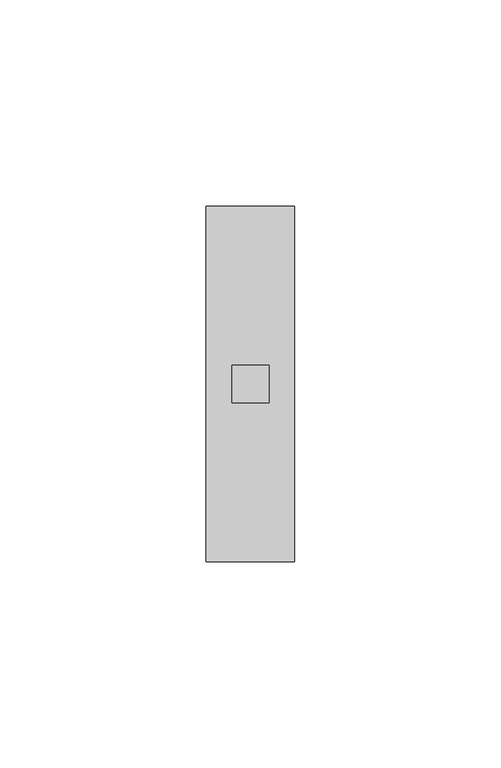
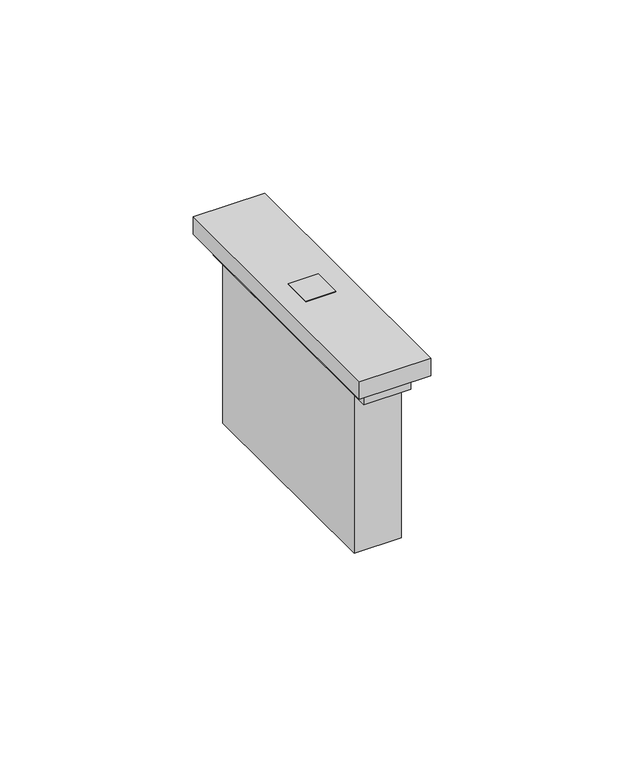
"""IFC4 building model written with IfcOpenShell, lengths in millimetres: switching device geometry, BT_LN-PulsanteAltaVisibilità_1M2M : Comando alta luminosità - Art. K4004L - 1M - Cover Sabbia."""

from ifc_helpers import new_model, si_unit, frame, origin, origin_with_axes, place, context, project, spatial, polyline, outline, extrude, source, transform, mapped, element, save


def switching_device_65dad4bc(model_context):
    return source(origin(), model_context, "Body", "SweptSolid", [
        extrude(outline(polyline([(-7.0, 39.0), (7.0, 39.0), (7.0, -39.0), (-7.0, -39.0), (-7.0, 39.0)])), frame((0.0, 0.0, 50.0), z_axis=(0.0, 0.0, 1.0), x_axis=(1.0, 0.0, 0.0)), (0.0, 0.0, 1.0), 5.5),
        extrude(outline(polyline([(-7.0, 34.0), (7.0, 34.0), (7.0, -34.0), (-7.0, -34.0), (-7.0, 34.0)])), origin_with_axes(), (0.0, 0.0, 1.0), 50.0),
        extrude(outline(polyline([(4.4754897, 4.5), (4.4754897, -4.5), (-4.4754897, -4.5), (-4.4754897, 4.5), (4.4754897, 4.5)])), frame((0.0, 0.0, 55.5), z_axis=(0.0, 0.0, 1.0), x_axis=(1.0, 0.0, 0.0)), (0.0, 0.0, 1.0), 5.5),
        extrude(outline(polyline([(-10.7, -43.0), (-10.7, 43.0), (10.7, 43.0), (10.7, -43.0), (-10.7, -43.0)]), holes=[polyline([(4.4754897, 4.5), (-4.4754897, 4.5), (-4.4754897, -4.5), (4.4754897, -4.5), (4.4754897, 4.5)])]), frame((0.0, 0.0, 55.5), z_axis=(0.0, 0.0, 1.0), x_axis=(1.0, 0.0, 0.0)), (0.0, 0.0, 1.0), 5.5),
    ])


if __name__ == "__main__":
    model = new_model("IFC4")
    model_context = context("Model", 3, world=origin())
    ifc_project = project(units=[si_unit("LENGTHUNIT", "METRE", prefix="MILLI")], contexts=[model_context])
    site = spatial("IfcSite", under=ifc_project)
    building = spatial("IfcBuilding", under=site)
    placement = place(None, origin())
    switching_device_shape = switching_device_65dad4bc(model_context)
    element("IfcSwitchingDevice", 1, ObjectType="BT_LN-PulsanteAltaVisibilità_1M2M : Comando alta luminosità - Art. K4004L - 1M - Cover Sabbia", at=placement, inside=building, context=model_context, shape_type="MappedRepresentation", body=[
        mapped(switching_device_shape, transform((0.0, 0.0, 0.0), x_axis=(1.0, 0.0, 0.0), y_axis=(0.0, 1.0, 0.0), z_axis=(0.0, 0.0, 1.0))),
    ])
    save(model, "model.ifc")
